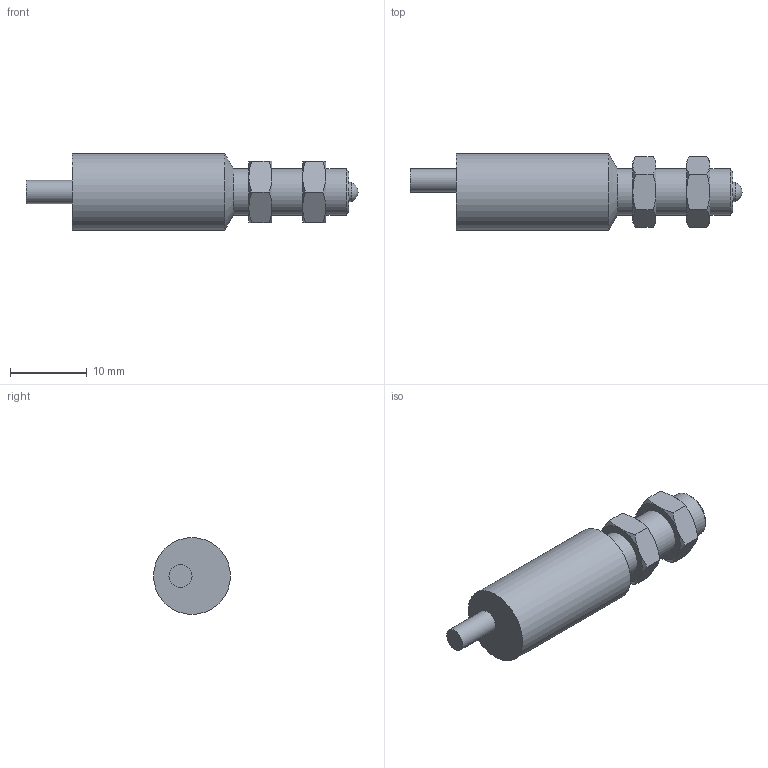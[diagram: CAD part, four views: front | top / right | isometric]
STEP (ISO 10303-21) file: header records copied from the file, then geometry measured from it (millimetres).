
FILE_DESCRIPTION( ( 'Unknown' ), '1' );
FILE_NAME( '//baumernet.org/ch01apps/SolidEdge/Models/Dokumentationen/MyCom+MS/MyCom E/Vereinfachte Modelle/Neutralformate/MY COM_E.stp', 'Unknown', ( 'Unknown' ), ( 'Unknown' ), 'PSStep 15.0.49', 'Unknown', ' ' );
FILE_SCHEMA( ( 'AUTOMOTIVE_DESIGN { 1 0 10303 214 1 1 1 1 }' ) );
Length unit declared in the file: millimetre
Products named in the file (3): Assem1; MY COM_E_oA; 109370
Assembly tree (3 placements, depth 2):
  Assem1
    MY COM_E_oA
    109370  x2
Bounding box: 43.2 x 10 x 10 mm (x, y, z)
Volume: 2277.3 mm3; surface area: 1515.5 mm2
Topology: 3 solids, 3 shells, 52 faces, 112 edges, 67 vertices
Faces by surface type: cone 26, plane 19, cylinder 6, sphere 1
Full cylindrical faces by diameter (mm): 2.49 x1, 3 x1, 5.459 x2, 6 x1, 10 x1
Entity records: 924 total; most frequent: CARTESIAN_POINT 228, DIRECTION 122, ORIENTED_EDGE 106, AXIS2_PLACEMENT_3D 58, EDGE_CURVE 53, EDGE_LOOP 42, FACE_OUTER_BOUND 36, VERTEX_POINT 36
